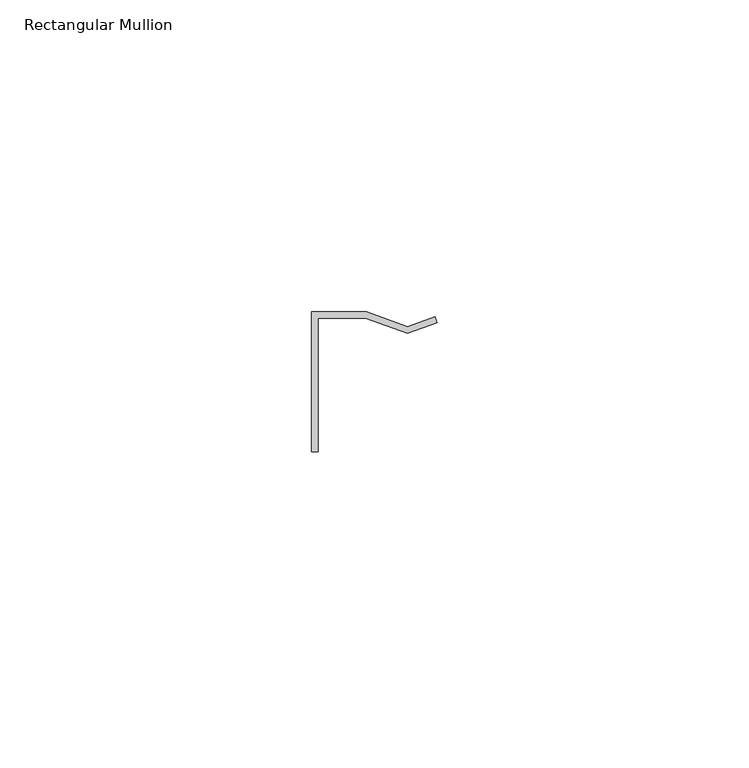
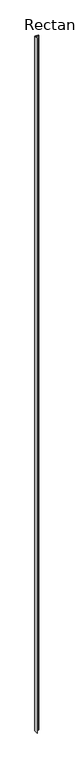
"""IFC4 building model written with IfcOpenShell, lengths in millimetres: member geometry, Rectangular Mullion : Stratco_Hiland_Interlock_Concealed Fix 5mm Gap_Male."""

import ifcopenshell
import ifcopenshell.guid

model = None  # the IFC model being written
_history = None  # IfcOwnerHistory: only IFC2X3 demands one
_inside = {}  # id of a spatial element -> (the spatial element, [elements in it])
_under = {}  # id of a project, library or spatial element -> (it, [spatial elements below it])
_declared = {}  # id of a project -> (the project, [libraries it declares])
_typed = {}  # id of a type object -> (the type object, [elements of that type])
_made_of = {}  # id of a material, layer set ... -> (it, [elements and type objects made of it])


def new_model(schema):
    """Start an empty IFC model of exactly this schema.

    Asked for "IFC4X3", IfcOpenShell would pick the latest addendum, in which some entities
    have other attributes; the version numbers below select the first issue.
    IFC2X3 requires an IfcOwnerHistory on every rooted entity: one is made here for all.
    """
    global model, _history
    if schema == "IFC4X3":
        model = ifcopenshell.file(schema_version=(4, 3, 0, 0))
    else:
        model = ifcopenshell.file(schema=schema)
    _inside.clear()
    _under.clear()
    _declared.clear()
    _typed.clear()
    _made_of.clear()
    _history = None
    if model.schema == "IFC2X3":
        org = make("IfcOrganization", Name="unknown")
        user = make(
            "IfcPersonAndOrganization",
            ThePerson=make("IfcPerson", FamilyName="unknown"),
            TheOrganization=org,
        )
        app = make(
            "IfcApplication",
            ApplicationDeveloper=org,
            Version="unknown",
            ApplicationFullName="unknown",
            ApplicationIdentifier="unknown",
        )
        _history = make(
            "IfcOwnerHistory",
            OwningUser=user,
            OwningApplication=app,
            ChangeAction="ADDED",
            CreationDate=0,
        )
    return model


def make(cls, **values):
    """One entity of the class cls with the attributes given. An attribute that is None is left unset."""
    return model.create_entity(
        cls, **{name: value for name, value in values.items() if value is not None}
    )


def rooted(cls, **values):
    """An entity with a GlobalId (a new one), such as an element, a storey or a relation."""
    return make(cls, GlobalId=ifcopenshell.guid.new(), OwnerHistory=_history, **values)


def si_unit(unit_type, name, prefix=None):
    """IfcSIUnit, for example si_unit("LENGTHUNIT", "METRE", prefix="MILLI")."""
    return make("IfcSIUnit", UnitType=unit_type, Prefix=prefix, Name=name)


def assignment(units):
    """IfcUnitAssignment: the units of a project."""
    return None if units is None else make("IfcUnitAssignment", Units=units)


def point(xyz):
    """IfcCartesianPoint."""
    return None if xyz is None else make("IfcCartesianPoint", Coordinates=xyz)


def direction(xyz):
    """IfcDirection."""
    return None if xyz is None else make("IfcDirection", DirectionRatios=xyz)


def frame(location, z_axis=None, x_axis=None):
    """IfcAxis2Placement3D, a coordinate frame: its origin and axes. An axis left out is left unset."""
    return make(
        "IfcAxis2Placement3D",
        Location=point(location),
        Axis=direction(z_axis),
        RefDirection=direction(x_axis),
    )


def origin():
    """The frame at (0, 0, 0) with its axes left unset."""
    return frame((0.0, 0.0, 0.0))


def place(relative_to, where):
    """IfcLocalPlacement: puts the frame where relative to a parent placement (None: the world)."""
    return make(
        "IfcLocalPlacement", PlacementRelTo=relative_to, RelativePlacement=where
    )


def context(
    kind, dimensions, precision=None, world=None, true_north=None, identifier=None
):
    """IfcGeometricRepresentationContext, for example the 3D "Model" context."""
    return make(
        "IfcGeometricRepresentationContext",
        ContextIdentifier=identifier,
        ContextType=kind,
        CoordinateSpaceDimension=dimensions,
        Precision=precision,
        WorldCoordinateSystem=world,
        TrueNorth=true_north,
    )


def project(units=None, contexts=None):
    """IfcProject with its units and contexts."""
    return rooted(
        "IfcProject",
        Name="project",
        RepresentationContexts=contexts,
        UnitsInContext=assignment(units),
    )


def spatial(cls, under=None, at=None, **own):
    """A site, building, storey or space (cls), placed at a placement, below another one or the project."""
    s = rooted(cls, ObjectPlacement=at, **own)
    if under is not None:
        _under.setdefault(under.id(), (under, []))[1].append(s)
    return s


def polyline(points):
    """IfcPolyline through the points."""
    return make("IfcPolyline", Points=[point(p) for p in points])


def outline(outer, holes=None, kind="AREA"):
    """IfcArbitraryClosedProfileDef: a profile drawn as a closed curve; with holes, ...WithVoids."""
    if holes is None:
        return make("IfcArbitraryClosedProfileDef", ProfileType=kind, OuterCurve=outer)
    return make(
        "IfcArbitraryProfileDefWithVoids",
        ProfileType=kind,
        OuterCurve=outer,
        InnerCurves=holes,
    )


def extrude(swept, where, along, depth):
    """IfcExtrudedAreaSolid: the profile swept, set in the frame where, extruded along a direction by depth."""
    return make(
        "IfcExtrudedAreaSolid",
        SweptArea=swept,
        Position=where,
        ExtrudedDirection=direction(along),
        Depth=depth,
    )


def shape(context_of_items, identifier, shape_type, items):
    """IfcShapeRepresentation: the items that make up one representation, for example the "Body"."""
    return make(
        "IfcShapeRepresentation",
        ContextOfItems=context_of_items,
        RepresentationIdentifier=identifier,
        RepresentationType=shape_type,
        Items=items,
    )


def source(mapping_origin, context_of_items, identifier, shape_type, items):
    """IfcRepresentationMap: a shape defined once, which mapped items show again and again."""
    return make(
        "IfcRepresentationMap",
        MappingOrigin=mapping_origin,
        MappedRepresentation=shape(context_of_items, identifier, shape_type, items),
    )


def transform(
    local_origin,
    x_axis=None,
    y_axis=None,
    z_axis=None,
    scale=None,
    scale2=None,
    scale3=None,
    uniform=True,
):
    """IfcCartesianTransformationOperator3D, or its non-uniform kind. x_axis, y_axis, z_axis: its Axis1, 2, 3."""
    if uniform:
        return make(
            "IfcCartesianTransformationOperator3D",
            Axis1=direction(x_axis),
            Axis2=direction(y_axis),
            LocalOrigin=point(local_origin),
            Scale=scale,
            Axis3=direction(z_axis),
        )
    return make(
        "IfcCartesianTransformationOperator3DnonUniform",
        Axis1=direction(x_axis),
        Axis2=direction(y_axis),
        LocalOrigin=point(local_origin),
        Scale=scale,
        Axis3=direction(z_axis),
        Scale2=scale2,
        Scale3=scale3,
    )


def mapped(mapping_source, mapping_target):
    """IfcMappedItem: shows the shape of a source again, moved by a transform."""
    return make(
        "IfcMappedItem", MappingSource=mapping_source, MappingTarget=mapping_target
    )


def made_of(thing, what):
    """Note that an element or type object is made of a material, layer set ...; save() writes the relation."""
    if what is not None:
        _made_of.setdefault(what.id(), (what, []))[1].append(thing)
    return thing


def element(
    cls,
    number,
    at=None,
    inside=None,
    cuts=None,
    type_object=None,
    material=None,
    context=None,
    identifier="Body",
    shape_type=None,
    held_by="IfcProductDefinitionShape",
    body=None,
    shapes=None,
    **own,
):
    """One element of the class cls, such as IfcWall. Its Tag is "e" and its number.

    at: its placement. inside: the storey or other place that contains it. cuts: it is an
    opening in that element (IfcRelVoidsElement). A single representation is given by context,
    identifier, shape_type and body (its items); several are given by shapes. held_by: the class
    of the entity that holds the representations. save() writes the other relations.
    """
    e = rooted(cls, Tag="e%d" % number, ObjectPlacement=at, **own)
    if body is not None:
        shapes = [shape(context, identifier, shape_type, body)]
    if shapes is not None:
        e.Representation = make(held_by, Representations=shapes)
    if inside is not None:
        _inside.setdefault(inside.id(), (inside, []))[1].append(e)
    if cuts is not None:
        rooted(
            "IfcRelVoidsElement", RelatingBuildingElement=cuts, RelatedOpeningElement=e
        )
    if type_object is not None:
        _typed.setdefault(type_object.id(), (type_object, []))[1].append(e)
    return made_of(e, material)


def aggregate(whole, parts):
    """IfcRelAggregates: a whole, such as a stair, and the parts it consists of."""
    return rooted("IfcRelAggregates", RelatingObject=whole, RelatedObjects=parts)


def save(model, path):
    """Write the relations noted so far, then the file.

    IfcRelAggregates (storeys below a building ...), IfcRelContainedInSpatialStructure (elements
    in a storey), IfcRelDefinesByType, IfcRelAssociatesMaterial and IfcRelDeclares: one each for
    every whole, place, type object, material and project.
    """
    for whole, parts in _under.values():
        aggregate(whole, parts)
    for where, things in _inside.values():
        rooted(
            "IfcRelContainedInSpatialStructure",
            RelatedElements=things,
            RelatingStructure=where,
        )
    for kind, things in _typed.values():
        rooted("IfcRelDefinesByType", RelatedObjects=things, RelatingType=kind)
    for what, things in _made_of.values():
        rooted("IfcRelAssociatesMaterial", RelatedObjects=things, RelatingMaterial=what)
    for by, libraries in _declared.values():
        rooted("IfcRelDeclares", RelatingContext=by, RelatedDefinitions=libraries)
    model.write(path)


def rectangular_mullion_c209810b(model_context):
    return source(origin(), model_context, "Body", "SweptSolid", [
        extrude(outline(polyline([(-19.0971974, -3.6), (-19.0971974, -25.0), (-20.0971974, -25.0), (-20.0971974, -2.6), (-11.2827248, -2.6), (-4.774873, -4.9686643), (-0.3420201, -3.3552379), (0.0, -4.2949305), (-4.774873, -6.0328421), (-11.4590518, -3.6), (-19.0971974, -3.6)])), frame((0.0, 0.0, -4000.0), z_axis=(0.0, 0.0, 1.0), x_axis=(1.0, 0.0, 0.0)), (0.0, 0.0, 1.0), 4000.0),
    ])


if __name__ == "__main__":
    model = new_model("IFC4")
    model_context = context("Model", 3, world=origin())
    ifc_project = project(units=[si_unit("LENGTHUNIT", "METRE", prefix="MILLI")], contexts=[model_context])
    site = spatial("IfcSite", under=ifc_project)
    building = spatial("IfcBuilding", under=site)
    placement = place(None, origin())
    rectangular_mullion_shape = rectangular_mullion_c209810b(model_context)
    element("IfcMember", 1, ObjectType="Rectangular Mullion : Stratco_Hiland_Interlock_Concealed Fix 5mm Gap_Male", at=placement, inside=building, context=model_context, shape_type="MappedRepresentation", body=[
        mapped(rectangular_mullion_shape, transform((0.0, 0.0, 0.0), x_axis=(1.0, 0.0, 0.0), y_axis=(0.0, 1.0, 0.0), z_axis=(0.0, 0.0, 1.0))),
    ])
    save(model, "model.ifc")
